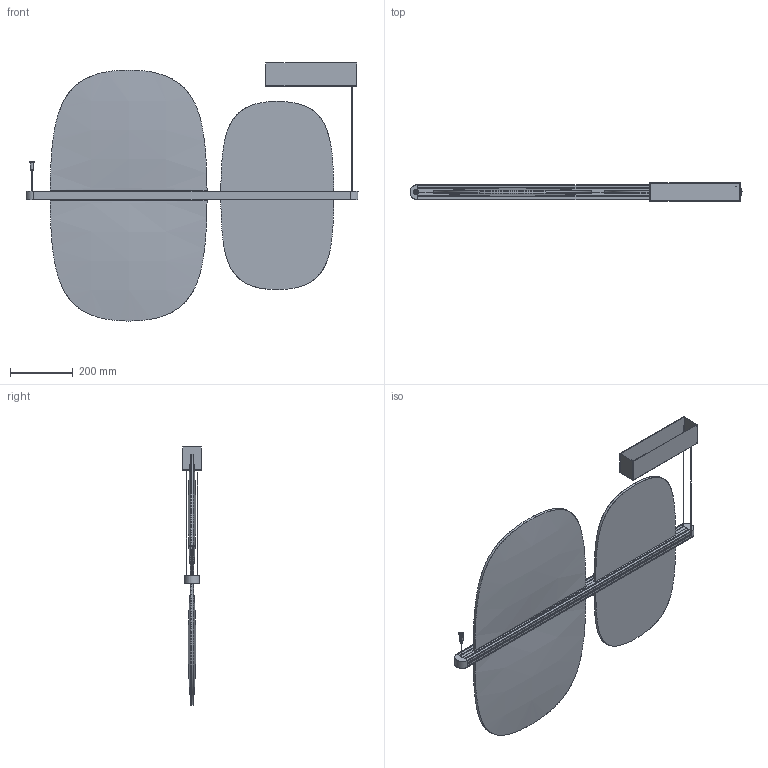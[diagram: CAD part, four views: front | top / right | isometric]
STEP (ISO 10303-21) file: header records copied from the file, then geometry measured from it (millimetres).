
FILE_DESCRIPTION(/* description */ (''),/* implementation_level */ '2;1');
FILE_NAME(/* name */ '19EB68~1',/* time_stamp */ '2021-06-09T15:04:14+02:00',/* author */ (''),/* organization */ (''),/* preprocessor_version */ 'ST-DEVELOPER v16.5',/* originating_system */ '',/* authorisation */ '');
FILE_SCHEMA (('CONFIG_CONTROL_DESIGN'));
Length unit declared in the file: millimetre
Products named in the file (10): Document; MIN.005185; MIN.005186; PLA.005070; PRE.005672; CEL.005307_1; PRE.005671; CEL.005307; MET.005568; MET.005548
Assembly tree (13 placements, depth 3):
  Document
    MIN.005185
    MIN.005186
    PLA.005070  x4
    PRE.005672
      CEL.005307_1
    PRE.005671
      CEL.005307
    MET.005568
    MET.005548  x2
Bounding box: 1058.44 x 60 x 822.61 mm (x, y, z)
Volume: 7416828.9 mm3; surface area: 1793467.8 mm2
Topology: 20 solids, 22 shells, 1524 faces, 4457 edges, 2969 vertices
Faces by surface type: plane 1244, cylinder 243, bspline 37
Entity records: 45007 total; most frequent: CARTESIAN_POINT 18493, ORIENTED_EDGE 7694, EDGE_CURVE 3863, B_SPLINE_CURVE_WITH_KNOTS 3489, VERTEX_POINT 2573, DIRECTION 1350, EDGE_LOOP 1334, ADVANCED_FACE 1323
